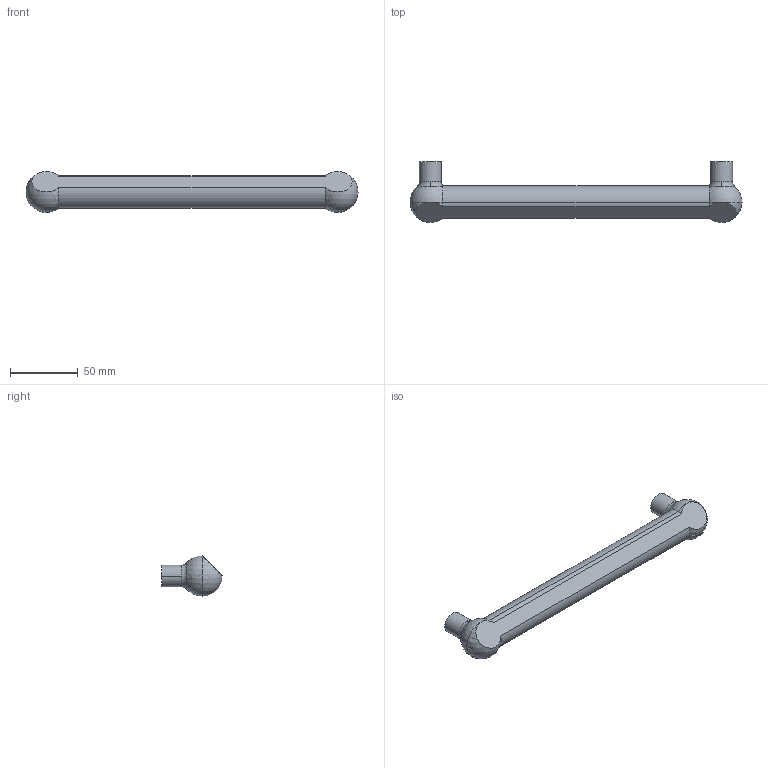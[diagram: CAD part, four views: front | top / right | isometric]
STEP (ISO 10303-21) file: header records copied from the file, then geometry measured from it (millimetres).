
FILE_DESCRIPTION( ( '' ), '1' );
FILE_NAME( 'D:/1.AUTOCAD EXPORT/Group 10/sheet_10_1/9105766.stp', '2013-10-18T08:18:08', ( '' ), ( '' ), ' ', ' ', ' ' );
FILE_SCHEMA( ( 'automotive_design' ) );
Length unit declared in the file: millimetre
Products named in the file (1): 1
Bounding box: 245 x 45 x 30 mm (x, y, z)
Volume: 117119.8 mm3; surface area: 21053.1 mm2
Topology: 1 solids, 1 shells, 26 faces, 72 edges, 40 vertices
Faces by surface type: cylinder 11, sphere 6, plane 5, torus 4
Entity records: 1548 total; most frequent: DIRECTION 162, CARTESIAN_POINT 157, STYLED_ITEM 129, PRESENTATION_STYLE_ASSIGNMENT 129, COLOUR_RGB 129, ORIENTED_EDGE 124, AXIS2_PLACEMENT_3D 75, EDGE_CURVE 62
